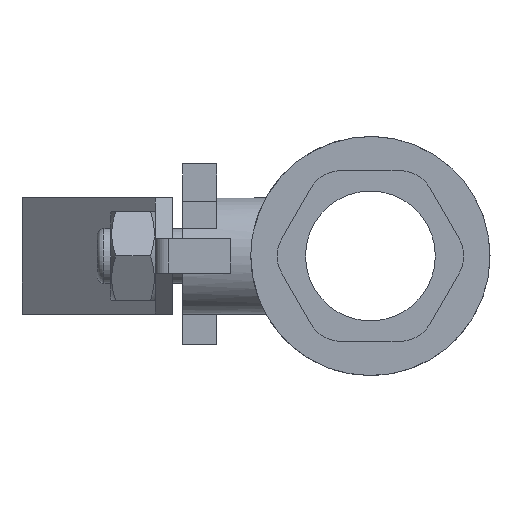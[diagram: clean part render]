
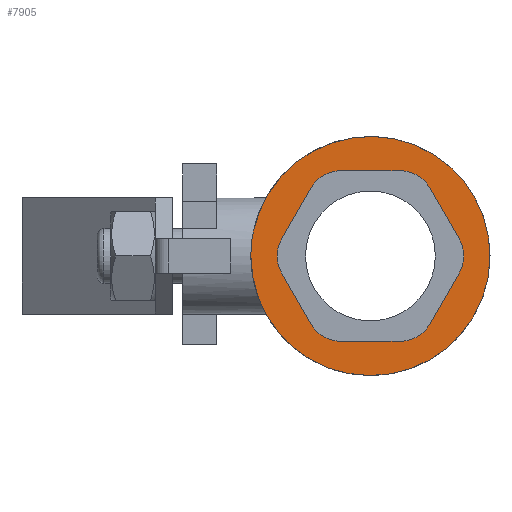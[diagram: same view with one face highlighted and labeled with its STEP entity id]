
A CAD part, left-side view. The second image highlights one B-rep face of the part: STEP entity #7905.
In plain terms, the highlighted planar face has unit normal (-1, 0, 0).
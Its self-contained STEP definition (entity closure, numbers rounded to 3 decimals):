
#7905=ADVANCED_FACE('',(#14581,#14583),#14585,.T.);
#14581=FACE_BOUND('',#14582,.T.);
#14582=EDGE_LOOP('',(#20113,#20114));
#14583=FACE_BOUND('',#14584,.T.);
#14584=EDGE_LOOP('',(#20115,#20116,#20117,#20118,#20119,#20120,#20121,#20122,#20123,
#20124,#20125,#20126));
#14585=PLANE('',#14586);
#14586=AXIS2_PLACEMENT_3D('',#14587,#14588,#14589);
#14587=CARTESIAN_POINT('',(7485.109,2577.826,0.));
#14588=DIRECTION('',(-1.,0.,0.));
#14589=DIRECTION('',(0.,0.,1.));
#20113=ORIENTED_EDGE('',*,*,#23001,.F.);
#20114=ORIENTED_EDGE('',*,*,#23002,.F.);
#20115=ORIENTED_EDGE('',*,*,#23003,.F.);
#20116=ORIENTED_EDGE('',*,*,#23004,.F.);
#20117=ORIENTED_EDGE('',*,*,#23005,.F.);
#20118=ORIENTED_EDGE('',*,*,#23006,.F.);
#20119=ORIENTED_EDGE('',*,*,#23007,.F.);
#20120=ORIENTED_EDGE('',*,*,#23008,.F.);
#20121=ORIENTED_EDGE('',*,*,#23009,.F.);
#20122=ORIENTED_EDGE('',*,*,#23010,.F.);
#20123=ORIENTED_EDGE('',*,*,#23011,.F.);
#20124=ORIENTED_EDGE('',*,*,#23012,.F.);
#20125=ORIENTED_EDGE('',*,*,#23013,.F.);
#20126=ORIENTED_EDGE('',*,*,#23014,.F.);
#23001=EDGE_CURVE('',#27391,#27392,#27393,.T.);
#23002=EDGE_CURVE('',#27392,#27391,#27394,.T.);
#23003=EDGE_CURVE('',#27395,#27396,#27397,.T.);
#23004=EDGE_CURVE('',#27398,#27395,#27399,.T.);
#23005=EDGE_CURVE('',#27400,#27398,#27401,.T.);
#23006=EDGE_CURVE('',#27402,#27400,#27403,.T.);
#23007=EDGE_CURVE('',#27404,#27402,#27405,.T.);
#23008=EDGE_CURVE('',#27406,#27404,#27407,.T.);
#23009=EDGE_CURVE('',#27408,#27406,#27409,.T.);
#23010=EDGE_CURVE('',#27410,#27408,#27411,.T.);
#23011=EDGE_CURVE('',#27412,#27410,#27413,.T.);
#23012=EDGE_CURVE('',#27414,#27412,#27415,.T.);
#23013=EDGE_CURVE('',#27416,#27414,#27417,.T.);
#23014=EDGE_CURVE('',#27396,#27416,#27418,.T.);
#27391=VERTEX_POINT('',#37071);
#27392=VERTEX_POINT('',#37072);
#27393=CIRCLE('',#37073,17.5);
#27394=CIRCLE('',#37077,17.5);
#27395=VERTEX_POINT('',#37081);
#27396=VERTEX_POINT('',#37082);
#27397=CIRCLE('',#37083,5.);
#27398=VERTEX_POINT('',#37087);
#27399=LINE('',#37088,#37089);
#27400=VERTEX_POINT('',#37091);
#27401=CIRCLE('',#37092,5.);
#27402=VERTEX_POINT('',#37096);
#27403=LINE('',#37097,#37098);
#27404=VERTEX_POINT('',#37100);
#27405=CIRCLE('',#37101,5.);
#27406=VERTEX_POINT('',#37105);
#27407=LINE('',#37106,#37107);
#27408=VERTEX_POINT('',#37109);
#27409=CIRCLE('',#37110,5.);
#27410=VERTEX_POINT('',#37114);
#27411=LINE('',#37115,#37116);
#27412=VERTEX_POINT('',#37118);
#27413=CIRCLE('',#37119,5.);
#27414=VERTEX_POINT('',#37123);
#27415=LINE('',#37124,#37125);
#27416=VERTEX_POINT('',#37127);
#27417=CIRCLE('',#37128,5.);
#27418=LINE('',#37132,#37133);
#37071=CARTESIAN_POINT('',(7485.109,2577.471,3.508));
#37072=CARTESIAN_POINT('',(7485.109,2577.826,0.));
#37073=AXIS2_PLACEMENT_3D('',#37074,#37075,#37076);
#37074=CARTESIAN_POINT('',(7485.109,2560.326,0.));
#37075=DIRECTION('',(1.,0.,0.));
#37076=DIRECTION('',(0.,0.98,0.2));
#37077=AXIS2_PLACEMENT_3D('',#37078,#37079,#37080);
#37078=CARTESIAN_POINT('',(7485.109,2560.326,0.));
#37079=DIRECTION('',(1.,0.,0.));
#37080=DIRECTION('',(0.,1.,0.));
#37081=CARTESIAN_POINT('',(7485.109,2551.666,10.));
#37082=CARTESIAN_POINT('',(7485.109,2555.996,12.5));
#37083=AXIS2_PLACEMENT_3D('',#37084,#37085,#37086);
#37084=CARTESIAN_POINT('',(7485.109,2555.996,7.5));
#37085=DIRECTION('',(-1.,0.,0.));
#37086=DIRECTION('',(0.,-0.866,0.5));
#37087=CARTESIAN_POINT('',(7485.109,2547.336,2.5));
#37088=CARTESIAN_POINT('',(7485.109,2547.336,2.5));
#37089=VECTOR('',#37090,1.);
#37090=DIRECTION('',(0.,0.5,0.866));
#37091=CARTESIAN_POINT('',(7485.109,2547.336,-2.5));
#37092=AXIS2_PLACEMENT_3D('',#37093,#37094,#37095);
#37093=CARTESIAN_POINT('',(7485.109,2551.666,0.));
#37094=DIRECTION('',(-1.,0.,0.));
#37095=DIRECTION('',(0.,-0.866,-0.5));
#37096=CARTESIAN_POINT('',(7485.109,2551.666,-10.));
#37097=CARTESIAN_POINT('',(7485.109,2551.666,-10.));
#37098=VECTOR('',#37099,1.);
#37099=DIRECTION('',(0.,-0.5,0.866));
#37100=CARTESIAN_POINT('',(7485.109,2555.996,-12.5));
#37101=AXIS2_PLACEMENT_3D('',#37102,#37103,#37104);
#37102=CARTESIAN_POINT('',(7485.109,2555.996,-7.5));
#37103=DIRECTION('',(-1.,0.,0.));
#37104=DIRECTION('',(0.,0.,-1.));
#37105=CARTESIAN_POINT('',(7485.109,2564.657,-12.5));
#37106=CARTESIAN_POINT('',(7485.109,2564.657,-12.5));
#37107=VECTOR('',#37108,1.);
#37108=DIRECTION('',(0.,-1.,0.));
#37109=CARTESIAN_POINT('',(7485.109,2568.987,-10.));
#37110=AXIS2_PLACEMENT_3D('',#37111,#37112,#37113);
#37111=CARTESIAN_POINT('',(7485.109,2564.657,-7.5));
#37112=DIRECTION('',(-1.,0.,0.));
#37113=DIRECTION('',(0.,0.866,-0.5));
#37114=CARTESIAN_POINT('',(7485.109,2573.317,-2.5));
#37115=CARTESIAN_POINT('',(7485.109,2573.317,-2.5));
#37116=VECTOR('',#37117,1.);
#37117=DIRECTION('',(0.,-0.5,-0.866));
#37118=CARTESIAN_POINT('',(7485.109,2573.317,2.5));
#37119=AXIS2_PLACEMENT_3D('',#37120,#37121,#37122);
#37120=CARTESIAN_POINT('',(7485.109,2568.987,0.));
#37121=DIRECTION('',(-1.,0.,0.));
#37122=DIRECTION('',(0.,0.866,0.5));
#37123=CARTESIAN_POINT('',(7485.109,2568.987,10.));
#37124=CARTESIAN_POINT('',(7485.109,2568.987,10.));
#37125=VECTOR('',#37126,1.);
#37126=DIRECTION('',(0.,0.5,-0.866));
#37127=CARTESIAN_POINT('',(7485.109,2564.657,12.5));
#37128=AXIS2_PLACEMENT_3D('',#37129,#37130,#37131);
#37129=CARTESIAN_POINT('',(7485.109,2564.657,7.5));
#37130=DIRECTION('',(-1.,0.,0.));
#37131=DIRECTION('',(0.,0.,1.));
#37132=CARTESIAN_POINT('',(7485.109,2555.996,12.5));
#37133=VECTOR('',#37134,1.);
#37134=DIRECTION('',(0.,1.,0.));
